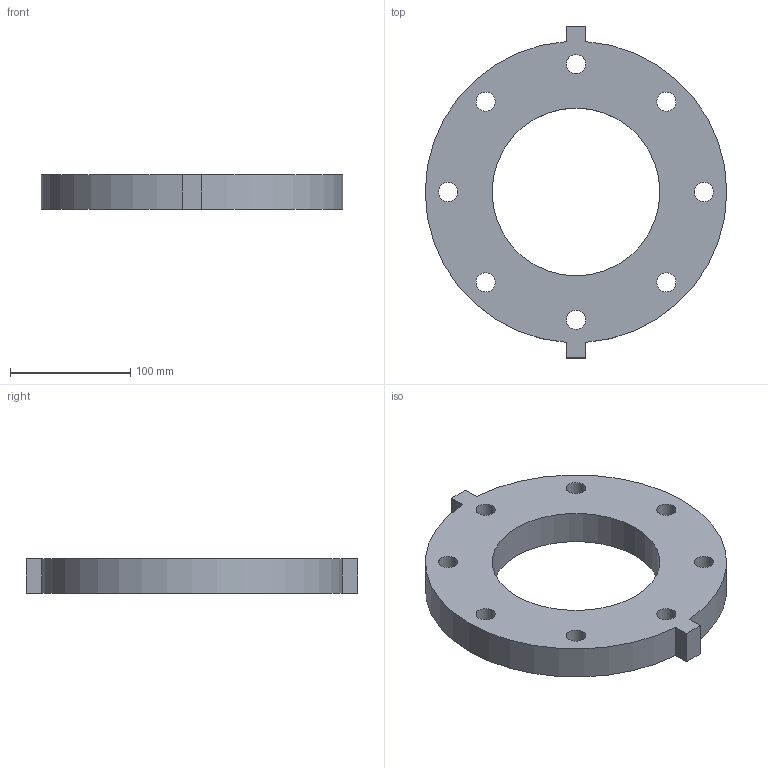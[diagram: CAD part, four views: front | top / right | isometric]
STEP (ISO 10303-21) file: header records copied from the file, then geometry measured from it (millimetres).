
FILE_DESCRIPTION(/* description */ ('VIC FLANGE ADAPTER STYLE 741 PN10 Flanges','CAx-IF Rec.Pracs.---Representation and Presentation of Product Manufacturing Information (PMI)---4.0---2014-10-13'),/* implementation_level */ '2;1');
FILE_NAME(/* name */ 'C:\Users\kkamble\AppData\Roaming\Autodesk\ApplicationPlugins\Back Up\Victaulic_IPS_Flange Adapter_PN10_Style 741 (OGSxFLG)\Victaulic_IPS_Flange Adapter_PN10_Style 741 (OGSxFLG)_05.0 (139.7) (125).stp',/* time_stamp */ '2020-07-24T08:16:07+06:00',/* author */ ('jheald'),/* organization */ ('Victaulic'),/* preprocessor_version */ 'ST-DEVELOPER v17.2',/* originating_system */ 'Autodesk Inventor 2019',/* authorisation */ '');
FILE_SCHEMA (('AP242_MANAGED_MODEL_BASED_3D_ENGINEERING_MIM_LF { 1 0 10303 442 1 1 4 }'));
Length unit declared in the file: inch
Products named in the file (1): 741-05.0 (139.7)
Bounding box: 250.95 x 276.35 x 28.7 mm (x, y, z)
Volume: 945469.9 mm3; surface area: 114137.8 mm2
Topology: 1 solids, 1 shells, 19 faces, 51 edges, 34 vertices
Faces by surface type: cylinder 11, plane 8
Full cylindrical faces by diameter (mm): 16.002 x8, 139.7 x1
Entity records: 703 total; most frequent: DIRECTION 113, CARTESIAN_POINT 105, ORIENTED_EDGE 102, EDGE_CURVE 51, AXIS2_PLACEMENT_3D 42, EDGE_LOOP 37, VERTEX_POINT 34, LINE 29
